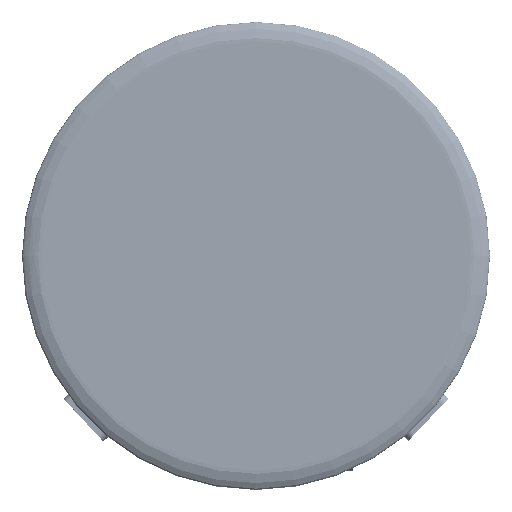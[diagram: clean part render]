
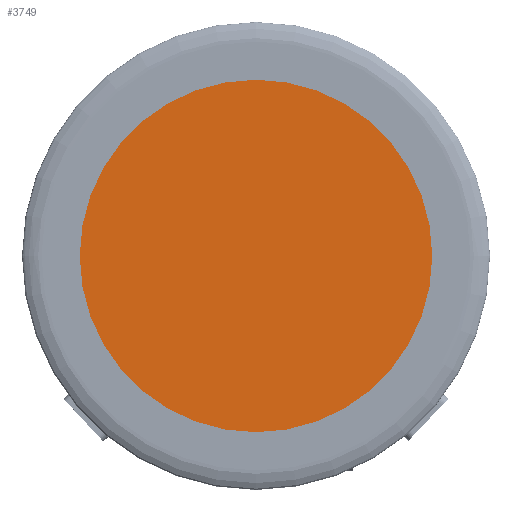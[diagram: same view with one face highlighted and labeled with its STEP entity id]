
A CAD part, top view. The second image highlights one B-rep face of the part: STEP entity #3749.
In plain terms, the highlighted planar face has unit normal (0, 0, 1).
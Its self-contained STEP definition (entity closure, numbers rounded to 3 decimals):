
#3020=CARTESIAN_POINT('',(0.,0.,4.65));
#3021=DIRECTION('',(0.,0.,-1.));
#3022=DIRECTION('',(-1.,0.,0.));
#3023=AXIS2_PLACEMENT_3D('',#3020,#3021,#3022);
#3025=CARTESIAN_POINT('',(0.,0.,4.65));
#3026=DIRECTION('',(0.,0.,-1.));
#3027=DIRECTION('',(1.,0.,0.));
#3028=AXIS2_PLACEMENT_3D('',#3025,#3026,#3027);
#3369=CARTESIAN_POINT('',(27.04,0.,4.65));
#3370=VERTEX_POINT('',#3369);
#3371=CARTESIAN_POINT('',(-27.04,0.,4.65));
#3372=VERTEX_POINT('',#3371);
#3740=CARTESIAN_POINT('',(0.,0.,4.65));
#3741=DIRECTION('',(0.,0.,1.));
#3742=DIRECTION('',(1.,0.,0.));
#3743=AXIS2_PLACEMENT_3D('',#3740,#3741,#3742);
#3744=PLANE('',#3743);
#3745=ORIENTED_EDGE('',*,*,#3720,.T.);
#3746=ORIENTED_EDGE('',*,*,#3734,.T.);
#3747=EDGE_LOOP('',(#3745,#3746));
#3748=FACE_OUTER_BOUND('',#3747,.F.);
#3749=ADVANCED_FACE('',(#3748),#3744,.T.);
#3024=CIRCLE('',#3023,27.04);
#3029=CIRCLE('',#3028,27.04);
#3720=EDGE_CURVE('',#3372,#3370,#3024,.T.);
#3734=EDGE_CURVE('',#3370,#3372,#3029,.T.);
